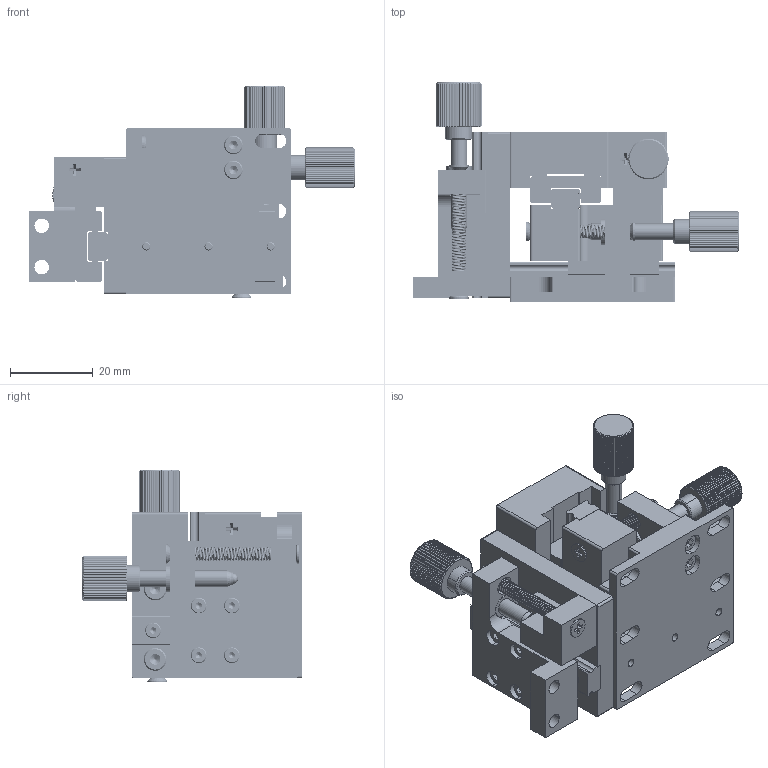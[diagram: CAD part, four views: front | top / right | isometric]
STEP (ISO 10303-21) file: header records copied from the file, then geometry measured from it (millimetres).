
FILE_DESCRIPTION (( 'STEP AP203' ), '1' );
FILE_NAME ('TSR25-XYZ-05-R(TPP10XYZ-03R).STEP', '2023-06-26T03:04:37', ( '' ), ( '' ), 'SwSTEP 2.0', 'SolidWorks 2019', '' );
FILE_SCHEMA (( 'CONFIG_CONTROL_DESIGN' ));
Products named in the file (1): TSR25-XYZ-05-R(TPP10XYZ-03R)
Bounding box: 78.6 x 53.2 x 51.3 mm (x, y, z)
Volume: 57928.5 mm3; surface area: 40178.8 mm2
Topology: 56 solids, 59 shells, 2378 faces, 5865 edges, 3645 vertices
Faces by surface type: plane 1140, cylinder 853, cone 306, torus 54, bspline 19, sphere 6
Entity records: 90278 total; most frequent: CARTESIAN_POINT 35650, ORIENTED_EDGE 11498, DIRECTION 11155, EDGE_CURVE 5749, AXIS2_PLACEMENT_3D 4147, VERTEX_POINT 3639, LINE 2861, VECTOR 2861
